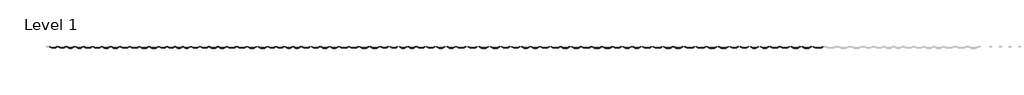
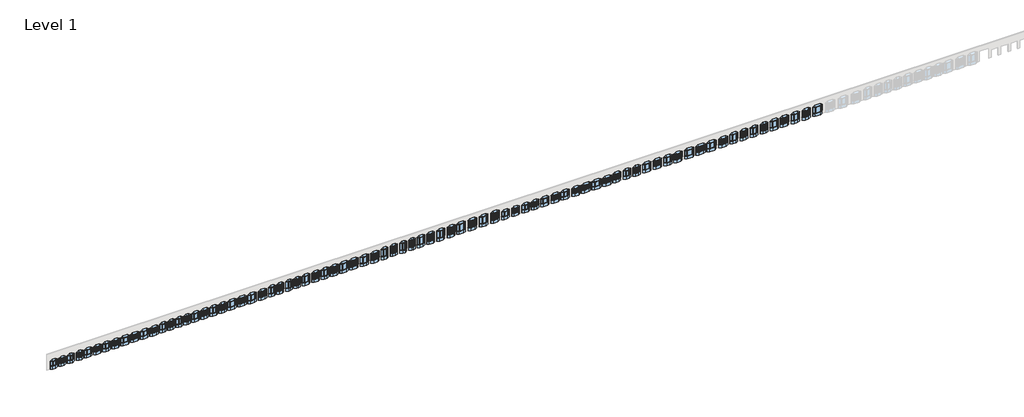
# One storey, part 1 of 3: 79 windows.
"""IFC4 building model written with IfcOpenShell, lengths in millimetres."""

from ifc_helpers import new_model, si_unit, origin, place, context, project, spatial, transform, mapped, element, save
from components import window_06a860e5, window_1d02490c, window_56131e6e, window_12f96043, window_e806ac1e, window_02c418e3, window_36d4527d, window_44f29f49, window_68b13da7, window_b91a7c74, window_684e526c, window_5ed1a6a2, window_db3cc471, window_7edb3484, window_b8dc1ca2, window_0ddc0329, window_752aa877, window_1a263967, window_af7ec51c, window_4b55bb3e, window_03d0ee73, window_8796bc3a, window_0c01a5ed, window_ea5e7c73, window_a33aca33, window_facd88c2, window_4abde0ae, window_d44ed7bf, window_23af1913, window_4f788b19, window_7b3487dd, window_06915691, window_b05a3061, window_df56da20, window_9f57e5f6, window_e866a77a, window_7cd55e26, window_5dafa3b9, window_66615fcf, window_bf2ad7f0, window_040baff0, window_f2461791, window_53f94c20, window_5dd3b73d, window_27e10596, window_4c319ae2, window_0452c5f0, window_05fdbd84, window_85cca415, window_d4aee2c4, window_12510623, window_be9948ae, window_daee31c8, window_10dcae05, window_05678f7b, window_d12ae702, window_9e145141, window_ebc5f2a3, window_377e60f7, window_7b85a637, window_5f73b018, window_1a3f96cc, window_671f8447, window_aa42a1c5, window_7be0c4a4, window_83c77013, window_55e1be5b, window_1a4903c0, window_a2543a47, window_95a61270, window_ce77d617, window_e9c9ef86, window_f1942e76, window_b6e0d081, window_3c337860, window_1e108c49, window_2a9c98d8, window_315284a6, window_90b13a35

model = new_model("IFC4")

# Units and contexts
model_context = context("Model", 3, world=origin())
ifc_project = project(units=[si_unit("LENGTHUNIT", "METRE", prefix="MILLI")], contexts=[model_context])

# Site, building, storey
site = spatial("IfcSite", under=ifc_project)
building = spatial("IfcBuilding", under=site)
storey = spatial("IfcBuildingStorey", under=building, Name="Level 1", Elevation=0.0)

# Windows
placement = place(None, origin())
window_shape = window_06a860e5(model_context)
element("IfcWindow", 1, ObjectType="Pollard_Windows_Tudor Casement Bows and Bays : AML-BAY 30 AFR0512-08-500", at=placement, inside=storey, context=model_context, shape_type="MappedRepresentation", body=[
    mapped(window_shape, transform((-88148.5766324, -2742.926046, 0.0), x_axis=(1.0, 0.0, 0.0), y_axis=(0.0, 1.0, 0.0), z_axis=(0.0, 0.0, 1.0))),
])
window_2_shape = window_1d02490c(model_context)
element("IfcWindow", 2, ObjectType="Pollard_Windows_Tudor Casement Bows and Bays : AML-BAY 30 AFR0512-08-500_GC", at=placement, inside=storey, context=model_context, shape_type="MappedRepresentation", body=[
    mapped(window_2_shape, transform((-86048.5766324, -2742.926046, 0.0), x_axis=(1.0, 0.0, 0.0), y_axis=(0.0, 1.0, 0.0), z_axis=(0.0, 0.0, 1.0))),
])
window_3_shape = window_56131e6e(model_context)
element("IfcWindow", 3, ObjectType="Pollard_Windows_Tudor Casement Bows and Bays : AML-BAY 30 AFR0512-08-600", at=placement, inside=storey, context=model_context, shape_type="MappedRepresentation", body=[
    mapped(window_3_shape, transform((-83948.5766324, -2742.926046, 0.0), x_axis=(1.0, 0.0, 0.0), y_axis=(0.0, 1.0, 0.0), z_axis=(0.0, 0.0, 1.0))),
])
window_4_shape = window_12f96043(model_context)
element("IfcWindow", 4, ObjectType="Pollard_Windows_Tudor Casement Bows and Bays : AML-BAY 30 AFR0512-08-600_GC", at=placement, inside=storey, context=model_context, shape_type="MappedRepresentation", body=[
    mapped(window_4_shape, transform((-81748.5766324, -2742.926046, 0.0), x_axis=(1.0, 0.0, 0.0), y_axis=(0.0, 1.0, 0.0), z_axis=(0.0, 0.0, 1.0))),
])
window_5_shape = window_e806ac1e(model_context)
element("IfcWindow", 5, ObjectType="Pollard_Windows_Tudor Casement Bows and Bays : AML-BAY 30 AFR0512-10-500", at=placement, inside=storey, context=model_context, shape_type="MappedRepresentation", body=[
    mapped(window_5_shape, transform((-79648.5766324, -2742.926046, 0.0), x_axis=(1.0, 0.0, 0.0), y_axis=(0.0, 1.0, 0.0), z_axis=(0.0, 0.0, 1.0))),
])
window_6_shape = window_02c418e3(model_context)
element("IfcWindow", 6, ObjectType="Pollard_Windows_Tudor Casement Bows and Bays : AML-BAY 30 AFR0512-10-500_GC", at=placement, inside=storey, context=model_context, shape_type="MappedRepresentation", body=[
    mapped(window_6_shape, transform((-77348.5766324, -2742.926046, 0.0), x_axis=(1.0, 0.0, 0.0), y_axis=(0.0, 1.0, 0.0), z_axis=(0.0, 0.0, 1.0))),
])
window_7_shape = window_36d4527d(model_context)
element("IfcWindow", 7, ObjectType="Pollard_Windows_Tudor Casement Bows and Bays : AML-BAY 30 AFR0512-10-600", at=placement, inside=storey, context=model_context, shape_type="MappedRepresentation", body=[
    mapped(window_7_shape, transform((-75148.5766324, -2742.926046, 0.0), x_axis=(1.0, 0.0, 0.0), y_axis=(0.0, 1.0, 0.0), z_axis=(0.0, 0.0, 1.0))),
])
window_8_shape = window_44f29f49(model_context)
element("IfcWindow", 8, ObjectType="Pollard_Windows_Tudor Casement Bows and Bays : AML-BAY 30 AFR0512-10-600_GC", at=placement, inside=storey, context=model_context, shape_type="MappedRepresentation", body=[
    mapped(window_8_shape, transform((-72848.5766324, -2742.926046, 0.0), x_axis=(-1.0, 0.0, 0.0), y_axis=(0.0, -1.0, 0.0), z_axis=(0.0, 0.0, 1.0))),
])
window_9_shape = window_68b13da7(model_context)
element("IfcWindow", 9, ObjectType="Pollard_Windows_Tudor Casement Bows and Bays : AML-BAY 30 AFR0512-12-500", at=placement, inside=storey, context=model_context, shape_type="MappedRepresentation", body=[
    mapped(window_9_shape, transform((-70548.5766324, -2742.926046, 0.0), x_axis=(1.0, 0.0, 0.0), y_axis=(0.0, 1.0, 0.0), z_axis=(0.0, 0.0, 1.0))),
])
window_10_shape = window_b91a7c74(model_context)
element("IfcWindow", 10, ObjectType="Pollard_Windows_Tudor Casement Bows and Bays : AML-BAY 30 AFR0512-12-500_GC", at=placement, inside=storey, context=model_context, shape_type="MappedRepresentation", body=[
    mapped(window_10_shape, transform((-68148.5766324, -2742.926046, 0.0), x_axis=(1.0, 0.0, 0.0), y_axis=(0.0, 1.0, 0.0), z_axis=(0.0, 0.0, 1.0))),
])
window_11_shape = window_684e526c(model_context)
element("IfcWindow", 11, ObjectType="Pollard_Windows_Tudor Casement Bows and Bays : AML-BAY 30 AFR0512-12-600", at=placement, inside=storey, context=model_context, shape_type="MappedRepresentation", body=[
    mapped(window_11_shape, transform((-65748.5766324, -2742.926046, 0.0), x_axis=(1.0, 0.0, 0.0), y_axis=(0.0, 1.0, 0.0), z_axis=(0.0, 0.0, 1.0))),
])
window_12_shape = window_5ed1a6a2(model_context)
element("IfcWindow", 12, ObjectType="Pollard_Windows_Tudor Casement Bows and Bays : AML-BAY 30 AFR0512-12-600_GC", at=placement, inside=storey, context=model_context, shape_type="MappedRepresentation", body=[
    mapped(window_12_shape, transform((-63348.5766324, -2742.926046, 0.0), x_axis=(1.0, 0.0, 0.0), y_axis=(0.0, 1.0, 0.0), z_axis=(0.0, 0.0, 1.0))),
])
window_13_shape = window_db3cc471(model_context)
element("IfcWindow", 13, ObjectType="Pollard_Windows_Tudor Casement Bows and Bays : AML-BAY 30 AFR0514-08-500", at=placement, inside=storey, context=model_context, shape_type="MappedRepresentation", body=[
    mapped(window_13_shape, transform((-61148.5766324, -2742.926046, 0.0), x_axis=(1.0, 0.0, 0.0), y_axis=(0.0, 1.0, 0.0), z_axis=(0.0, 0.0, 1.0))),
])
window_14_shape = window_7edb3484(model_context)
element("IfcWindow", 14, ObjectType="Pollard_Windows_Tudor Casement Bows and Bays : AML-BAY 30 AFR0514-08-500_GC", at=placement, inside=storey, context=model_context, shape_type="MappedRepresentation", body=[
    mapped(window_14_shape, transform((-59148.5766324, -2742.926046, 0.0), x_axis=(1.0, 0.0, 0.0), y_axis=(0.0, 1.0, 0.0), z_axis=(0.0, 0.0, 1.0))),
])
window_15_shape = window_b8dc1ca2(model_context)
element("IfcWindow", 15, ObjectType="Pollard_Windows_Tudor Casement Bows and Bays : AML-BAY 30 AFR0514-08-600", at=placement, inside=storey, context=model_context, shape_type="MappedRepresentation", body=[
    mapped(window_15_shape, transform((-57148.5766324, -2742.926046, 0.0), x_axis=(1.0, 0.0, 0.0), y_axis=(0.0, 1.0, 0.0), z_axis=(0.0, 0.0, 1.0))),
])
window_16_shape = window_0ddc0329(model_context)
element("IfcWindow", 16, ObjectType="Pollard_Windows_Tudor Casement Bows and Bays : AML-BAY 30 AFR0514-08-600_GC", at=placement, inside=storey, context=model_context, shape_type="MappedRepresentation", body=[
    mapped(window_16_shape, transform((-55248.5766324, -2742.926046, 0.0), x_axis=(1.0, 0.0, 0.0), y_axis=(0.0, 1.0, 0.0), z_axis=(0.0, 0.0, 1.0))),
])
window_17_shape = window_752aa877(model_context)
element("IfcWindow", 17, ObjectType="Pollard_Windows_Tudor Casement Bows and Bays : AML-BAY 30 AFR0514-10-500", at=placement, inside=storey, context=model_context, shape_type="MappedRepresentation", body=[
    mapped(window_17_shape, transform((-53148.5766324, -2742.926046, 0.0), x_axis=(1.0, 0.0, 0.0), y_axis=(0.0, 1.0, 0.0), z_axis=(0.0, 0.0, 1.0))),
])
window_18_shape = window_1a263967(model_context)
element("IfcWindow", 18, ObjectType="Pollard_Windows_Tudor Casement Bows and Bays : AML-BAY 30 AFR0514-10-500_GC", at=placement, inside=storey, context=model_context, shape_type="MappedRepresentation", body=[
    mapped(window_18_shape, transform((-50848.5766324, -2742.926046, 0.0), x_axis=(1.0, 0.0, 0.0), y_axis=(0.0, 1.0, 0.0), z_axis=(0.0, 0.0, 1.0))),
])
window_19_shape = window_af7ec51c(model_context)
element("IfcWindow", 19, ObjectType="Pollard_Windows_Tudor Casement Bows and Bays : AML-BAY 30 AFR0514-10-600", at=placement, inside=storey, context=model_context, shape_type="MappedRepresentation", body=[
    mapped(window_19_shape, transform((-48648.5766324, -2742.926046, 0.0), x_axis=(1.0, 0.0, 0.0), y_axis=(0.0, 1.0, 0.0), z_axis=(0.0, 0.0, 1.0))),
])
window_20_shape = window_4b55bb3e(model_context)
element("IfcWindow", 20, ObjectType="Pollard_Windows_Tudor Casement Bows and Bays : AML-BAY 30 AFR0514-10-600_GC", at=placement, inside=storey, context=model_context, shape_type="MappedRepresentation", body=[
    mapped(window_20_shape, transform((-46448.5766324, -2742.926046, 0.0), x_axis=(1.0, 0.0, 0.0), y_axis=(0.0, 1.0, 0.0), z_axis=(0.0, 0.0, 1.0))),
])
window_21_shape = window_03d0ee73(model_context)
element("IfcWindow", 21, ObjectType="Pollard_Windows_Tudor Casement Bows and Bays : AML-BAY 30 AFR0514-12-500", at=placement, inside=storey, context=model_context, shape_type="MappedRepresentation", body=[
    mapped(window_21_shape, transform((-44148.5766324, -2742.926046, 0.0), x_axis=(1.0, 0.0, 0.0), y_axis=(0.0, 1.0, 0.0), z_axis=(0.0, 0.0, 1.0))),
])
window_22_shape = window_8796bc3a(model_context)
element("IfcWindow", 22, ObjectType="Pollard_Windows_Tudor Casement Bows and Bays : AML-BAY 30 AFR0514-12-500_GC", at=placement, inside=storey, context=model_context, shape_type="MappedRepresentation", body=[
    mapped(window_22_shape, transform((-41648.5766324, -2742.926046, 0.0), x_axis=(1.0, 0.0, 0.0), y_axis=(0.0, 1.0, 0.0), z_axis=(0.0, 0.0, 1.0))),
])
window_23_shape = window_0c01a5ed(model_context)
element("IfcWindow", 23, ObjectType="Pollard_Windows_Tudor Casement Bows and Bays : AML-BAY 30 AFR0514-12-600", at=placement, inside=storey, context=model_context, shape_type="MappedRepresentation", body=[
    mapped(window_23_shape, transform((-39148.5766324, -2742.926046, 0.0), x_axis=(1.0, 0.0, 0.0), y_axis=(0.0, 1.0, 0.0), z_axis=(0.0, 0.0, 1.0))),
])
window_24_shape = window_ea5e7c73(model_context)
element("IfcWindow", 24, ObjectType="Pollard_Windows_Tudor Casement Bows and Bays : AML-BAY 30 AFR0514-12-600_GC", at=placement, inside=storey, context=model_context, shape_type="MappedRepresentation", body=[
    mapped(window_24_shape, transform((-36548.5766324, -2742.926046, 0.0), x_axis=(1.0, 0.0, 0.0), y_axis=(0.0, 1.0, 0.0), z_axis=(0.0, 0.0, 1.0))),
])
window_25_shape = window_a33aca33(model_context)
element("IfcWindow", 25, ObjectType="Pollard_Windows_Tudor Casement Bows and Bays : AML-BAY 30 AFR0516-08-500", at=placement, inside=storey, context=model_context, shape_type="MappedRepresentation", body=[
    mapped(window_25_shape, transform((-34248.5766324, -2742.926046, 0.0), x_axis=(1.0, 0.0, 0.0), y_axis=(0.0, 1.0, 0.0), z_axis=(0.0, 0.0, 1.0))),
])
window_26_shape = window_facd88c2(model_context)
element("IfcWindow", 26, ObjectType="Pollard_Windows_Tudor Casement Bows and Bays : AML-BAY 30 AFR0516-08-500_GC", at=placement, inside=storey, context=model_context, shape_type="MappedRepresentation", body=[
    mapped(window_26_shape, transform((-32248.5766324, -2742.926046, 0.0), x_axis=(1.0, 0.0, 0.0), y_axis=(0.0, 1.0, 0.0), z_axis=(0.0, 0.0, 1.0))),
])
window_27_shape = window_4abde0ae(model_context)
element("IfcWindow", 27, ObjectType="Pollard_Windows_Tudor Casement Bows and Bays : AML-BAY 30 AFR0516-08-600", at=placement, inside=storey, context=model_context, shape_type="MappedRepresentation", body=[
    mapped(window_27_shape, transform((-30048.5766324, -2742.926046, 0.0), x_axis=(1.0, 0.0, 0.0), y_axis=(0.0, 1.0, 0.0), z_axis=(0.0, 0.0, 1.0))),
])
window_28_shape = window_d44ed7bf(model_context)
element("IfcWindow", 28, ObjectType="Pollard_Windows_Tudor Casement Bows and Bays : AML-BAY 30 AFR0516-08-600_GC", at=placement, inside=storey, context=model_context, shape_type="MappedRepresentation", body=[
    mapped(window_28_shape, transform((-28048.5766324, -2742.926046, 0.0), x_axis=(1.0, 0.0, 0.0), y_axis=(0.0, 1.0, 0.0), z_axis=(0.0, 0.0, 1.0))),
])
window_29_shape = window_23af1913(model_context)
element("IfcWindow", 29, ObjectType="Pollard_Windows_Tudor Casement Bows and Bays : AML-BAY 30 AFR0516-10-500", at=placement, inside=storey, context=model_context, shape_type="MappedRepresentation", body=[
    mapped(window_29_shape, transform((-25848.5766324, -2742.926046, 0.0), x_axis=(1.0, 0.0, 0.0), y_axis=(0.0, 1.0, 0.0), z_axis=(0.0, 0.0, 1.0))),
])
window_30_shape = window_4f788b19(model_context)
element("IfcWindow", 30, ObjectType="Pollard_Windows_Tudor Casement Bows and Bays : AML-BAY 30 AFR0516-10-500_GC", at=placement, inside=storey, context=model_context, shape_type="MappedRepresentation", body=[
    mapped(window_30_shape, transform((-23448.5766324, -2742.926046, 0.0), x_axis=(1.0, 0.0, 0.0), y_axis=(0.0, 1.0, 0.0), z_axis=(0.0, 0.0, 1.0))),
])
window_31_shape = window_7b3487dd(model_context)
element("IfcWindow", 31, ObjectType="Pollard_Windows_Tudor Casement Bows and Bays : AML-BAY 30 AFR0516-10-600", at=placement, inside=storey, context=model_context, shape_type="MappedRepresentation", body=[
    mapped(window_31_shape, transform((-21148.5766324, -2742.926046, 0.0), x_axis=(1.0, 0.0, 0.0), y_axis=(0.0, 1.0, 0.0), z_axis=(0.0, 0.0, 1.0))),
])
window_32_shape = window_06915691(model_context)
element("IfcWindow", 32, ObjectType="Pollard_Windows_Tudor Casement Bows and Bays : AML-BAY 30 AFR0516-10-600_GC", at=placement, inside=storey, context=model_context, shape_type="MappedRepresentation", body=[
    mapped(window_32_shape, transform((-18848.5766324, -2742.926046, 0.0), x_axis=(1.0, 0.0, 0.0), y_axis=(0.0, 1.0, 0.0), z_axis=(0.0, 0.0, 1.0))),
])
window_33_shape = window_b05a3061(model_context)
element("IfcWindow", 33, ObjectType="Pollard_Windows_Tudor Casement Bows and Bays : AML-BAY 30 AFR0516-12-500", at=placement, inside=storey, context=model_context, shape_type="MappedRepresentation", body=[
    mapped(window_33_shape, transform((-16448.5766324, -2742.926046, 0.0), x_axis=(1.0, 0.0, 0.0), y_axis=(0.0, 1.0, 0.0), z_axis=(0.0, 0.0, 1.0))),
])
window_34_shape = window_df56da20(model_context)
element("IfcWindow", 34, ObjectType="Pollard_Windows_Tudor Casement Bows and Bays : AML-BAY 30 AFR0516-12-500_GC", at=placement, inside=storey, context=model_context, shape_type="MappedRepresentation", body=[
    mapped(window_34_shape, transform((-14048.5766324, -2742.926046, 0.0), x_axis=(1.0, 0.0, 0.0), y_axis=(0.0, 1.0, 0.0), z_axis=(0.0, 0.0, 1.0))),
])
window_35_shape = window_9f57e5f6(model_context)
element("IfcWindow", 35, ObjectType="Pollard_Windows_Tudor Casement Bows and Bays : AML-BAY 30 AFR0516-12-600", at=placement, inside=storey, context=model_context, shape_type="MappedRepresentation", body=[
    mapped(window_35_shape, transform((-11448.5766324, -2742.926046, 0.0), x_axis=(1.0, 0.0, 0.0), y_axis=(0.0, 1.0, 0.0), z_axis=(0.0, 0.0, 1.0))),
])
window_36_shape = window_e866a77a(model_context)
element("IfcWindow", 36, ObjectType="Pollard_Windows_Tudor Casement Bows and Bays : AML-BAY 30 AFR0516-12-600_GC", at=placement, inside=storey, context=model_context, shape_type="MappedRepresentation", body=[
    mapped(window_36_shape, transform((-8848.5766324, -2742.926046, 0.0), x_axis=(1.0, 0.0, 0.0), y_axis=(0.0, 1.0, 0.0), z_axis=(0.0, 0.0, 1.0))),
])
window_37_shape = window_7cd55e26(model_context)
element("IfcWindow", 37, ObjectType="Pollard_Windows_Tudor Casement Bows and Bays : AML-BAY 30 AFR0518-08-500", at=placement, inside=storey, context=model_context, shape_type="MappedRepresentation", body=[
    mapped(window_37_shape, transform((-6448.5766324, -2742.926046, 0.0), x_axis=(1.0, 0.0, 0.0), y_axis=(0.0, 1.0, 0.0), z_axis=(0.0, 0.0, 1.0))),
])
window_38_shape = window_5dafa3b9(model_context)
element("IfcWindow", 38, ObjectType="Pollard_Windows_Tudor Casement Bows and Bays : AML-BAY 30 AFR0518-08-500_GC", at=placement, inside=storey, context=model_context, shape_type="MappedRepresentation", body=[
    mapped(window_38_shape, transform((-4148.5766324, -2742.926046, 0.0), x_axis=(1.0, 0.0, 0.0), y_axis=(0.0, 1.0, 0.0), z_axis=(0.0, 0.0, 1.0))),
])
window_39_shape = window_66615fcf(model_context)
element("IfcWindow", 39, ObjectType="Pollard_Windows_Tudor Casement Bows and Bays : AML-BAY 30 AFR0518-08-600", at=placement, inside=storey, context=model_context, shape_type="MappedRepresentation", body=[
    mapped(window_39_shape, transform((-1848.5766324, -2742.926046, 0.0), x_axis=(1.0, 0.0, 0.0), y_axis=(0.0, 1.0, 0.0), z_axis=(0.0, 0.0, 1.0))),
])
window_40_shape = window_bf2ad7f0(model_context)
element("IfcWindow", 40, ObjectType="Pollard_Windows_Tudor Casement Bows and Bays : AML-BAY 30 AFR0518-08-600_GC", at=placement, inside=storey, context=model_context, shape_type="MappedRepresentation", body=[
    mapped(window_40_shape, transform((351.4233676, -2742.926046, 0.0), x_axis=(1.0, 0.0, 0.0), y_axis=(0.0, 1.0, 0.0), z_axis=(0.0, 0.0, 1.0))),
])
window_41_shape = window_040baff0(model_context)
element("IfcWindow", 41, ObjectType="Pollard_Windows_Tudor Casement Bows and Bays : AML-BAY 30 AFR0518-10-500", at=placement, inside=storey, context=model_context, shape_type="MappedRepresentation", body=[
    mapped(window_41_shape, transform((2551.4233676, -2742.926046, 0.0), x_axis=(1.0, 0.0, 0.0), y_axis=(0.0, 1.0, 0.0), z_axis=(0.0, 0.0, 1.0))),
])
window_42_shape = window_f2461791(model_context)
element("IfcWindow", 42, ObjectType="Pollard_Windows_Tudor Casement Bows and Bays : AML-BAY 30 AFR0518-10-500_GC", at=placement, inside=storey, context=model_context, shape_type="MappedRepresentation", body=[
    mapped(window_42_shape, transform((4951.4233676, -2742.926046, 0.0), x_axis=(1.0, 0.0, 0.0), y_axis=(0.0, 1.0, 0.0), z_axis=(0.0, 0.0, 1.0))),
])
window_43_shape = window_53f94c20(model_context)
element("IfcWindow", 43, ObjectType="Pollard_Windows_Tudor Casement Bows and Bays : AML-BAY 30 AFR0518-10-600", at=placement, inside=storey, context=model_context, shape_type="MappedRepresentation", body=[
    mapped(window_43_shape, transform((7451.4233676, -2742.926046, 0.0), x_axis=(1.0, 0.0, 0.0), y_axis=(0.0, 1.0, 0.0), z_axis=(0.0, 0.0, 1.0))),
])
window_44_shape = window_5dd3b73d(model_context)
element("IfcWindow", 44, ObjectType="Pollard_Windows_Tudor Casement Bows and Bays : AML-BAY 30 AFR0518-10-600_GC", at=placement, inside=storey, context=model_context, shape_type="MappedRepresentation", body=[
    mapped(window_44_shape, transform((10051.4233676, -2742.926046, 0.0), x_axis=(1.0, 0.0, 0.0), y_axis=(0.0, 1.0, 0.0), z_axis=(0.0, 0.0, 1.0))),
])
window_45_shape = window_27e10596(model_context)
element("IfcWindow", 45, ObjectType="Pollard_Windows_Tudor Casement Bows and Bays : AML-BAY 30 AFR0518-12-500", at=placement, inside=storey, context=model_context, shape_type="MappedRepresentation", body=[
    mapped(window_45_shape, transform((12451.4233676, -2742.926046, 0.0), x_axis=(1.0, 0.0, 0.0), y_axis=(0.0, 1.0, 0.0), z_axis=(0.0, 0.0, 1.0))),
])
window_46_shape = window_4c319ae2(model_context)
element("IfcWindow", 46, ObjectType="Pollard_Windows_Tudor Casement Bows and Bays : AML-BAY 30 AFR0518-12-500_GC", at=placement, inside=storey, context=model_context, shape_type="MappedRepresentation", body=[
    mapped(window_46_shape, transform((15251.4233676, -2742.926046, 0.0), x_axis=(1.0, 0.0, 0.0), y_axis=(0.0, 1.0, 0.0), z_axis=(0.0, 0.0, 1.0))),
])
window_47_shape = window_0452c5f0(model_context)
element("IfcWindow", 47, ObjectType="Pollard_Windows_Tudor Casement Bows and Bays : AML-BAY 30 AFR0518-12-600", at=placement, inside=storey, context=model_context, shape_type="MappedRepresentation", body=[
    mapped(window_47_shape, transform((18051.4233676, -2742.926046, 0.0), x_axis=(1.0, 0.0, 0.0), y_axis=(0.0, 1.0, 0.0), z_axis=(0.0, 0.0, 1.0))),
])
window_48_shape = window_05fdbd84(model_context)
element("IfcWindow", 48, ObjectType="Pollard_Windows_Tudor Casement Bows and Bays : AML-BAY 30 AFR0518-12-600_GC", at=placement, inside=storey, context=model_context, shape_type="MappedRepresentation", body=[
    mapped(window_48_shape, transform((20851.4233676, -2742.926046, 0.0), x_axis=(1.0, 0.0, 0.0), y_axis=(0.0, 1.0, 0.0), z_axis=(0.0, 0.0, 1.0))),
])
window_49_shape = window_85cca415(model_context)
element("IfcWindow", 49, ObjectType="Pollard_Windows_Tudor Casement Bows and Bays : AML-BAY 30 AFR0612-08-500", at=placement, inside=storey, context=model_context, shape_type="MappedRepresentation", body=[
    mapped(window_49_shape, transform((23451.4233676, -2742.926046, 0.0), x_axis=(1.0, 0.0, 0.0), y_axis=(0.0, 1.0, 0.0), z_axis=(0.0, 0.0, 1.0))),
])
window_50_shape = window_d4aee2c4(model_context)
element("IfcWindow", 50, ObjectType="Pollard_Windows_Tudor Casement Bows and Bays : AML-BAY 30 AFR0612-08-500_GC", at=placement, inside=storey, context=model_context, shape_type="MappedRepresentation", body=[
    mapped(window_50_shape, transform((25951.4233676, -2742.926046, 0.0), x_axis=(1.0, 0.0, 0.0), y_axis=(0.0, 1.0, 0.0), z_axis=(0.0, 0.0, 1.0))),
])
window_51_shape = window_12510623(model_context)
element("IfcWindow", 51, ObjectType="Pollard_Windows_Tudor Casement Bows and Bays : AML-BAY 30 AFR0612-08-600", at=placement, inside=storey, context=model_context, shape_type="MappedRepresentation", body=[
    mapped(window_51_shape, transform((28451.4233676, -2742.926046, 0.0), x_axis=(1.0, 0.0, 0.0), y_axis=(0.0, 1.0, 0.0), z_axis=(0.0, 0.0, 1.0))),
])
window_52_shape = window_be9948ae(model_context)
element("IfcWindow", 52, ObjectType="Pollard_Windows_Tudor Casement Bows and Bays : AML-BAY 30 AFR0612-08-600_GC", at=placement, inside=storey, context=model_context, shape_type="MappedRepresentation", body=[
    mapped(window_52_shape, transform((30751.4233676, -2742.926046, 0.0), x_axis=(1.0, 0.0, 0.0), y_axis=(0.0, 1.0, 0.0), z_axis=(0.0, 0.0, 1.0))),
])
window_53_shape = window_daee31c8(model_context)
element("IfcWindow", 53, ObjectType="Pollard_Windows_Tudor Casement Bows and Bays : AML-BAY 30 AFR0612-10-500", at=placement, inside=storey, context=model_context, shape_type="MappedRepresentation", body=[
    mapped(window_53_shape, transform((33151.4233676, -2742.926046, 0.0), x_axis=(1.0, 0.0, 0.0), y_axis=(0.0, 1.0, 0.0), z_axis=(0.0, 0.0, 1.0))),
])
window_54_shape = window_10dcae05(model_context)
element("IfcWindow", 54, ObjectType="Pollard_Windows_Tudor Casement Bows and Bays : AML-BAY 30 AFR0612-10-500_GC", at=placement, inside=storey, context=model_context, shape_type="MappedRepresentation", body=[
    mapped(window_54_shape, transform((35751.4233676, -2742.926046, 0.0), x_axis=(1.0, 0.0, 0.0), y_axis=(0.0, 1.0, 0.0), z_axis=(0.0, 0.0, 1.0))),
])
window_55_shape = window_05678f7b(model_context)
element("IfcWindow", 55, ObjectType="Pollard_Windows_Tudor Casement Bows and Bays : AML-BAY 30 AFR0612-10-600", at=placement, inside=storey, context=model_context, shape_type="MappedRepresentation", body=[
    mapped(window_55_shape, transform((38151.4233676, -2742.926046, 0.0), x_axis=(1.0, 0.0, 0.0), y_axis=(0.0, 1.0, 0.0), z_axis=(0.0, 0.0, 1.0))),
])
window_56_shape = window_d12ae702(model_context)
element("IfcWindow", 56, ObjectType="Pollard_Windows_Tudor Casement Bows and Bays : AML-BAY 30 AFR0612-10-600_GC", at=placement, inside=storey, context=model_context, shape_type="MappedRepresentation", body=[
    mapped(window_56_shape, transform((40851.4233676, -2742.926046, 0.0), x_axis=(1.0, 0.0, 0.0), y_axis=(0.0, 1.0, 0.0), z_axis=(0.0, 0.0, 1.0))),
])
window_57_shape = window_9e145141(model_context)
element("IfcWindow", 57, ObjectType="Pollard_Windows_Tudor Casement Bows and Bays : AML-BAY 30 AFR0612-12-500_GC", at=placement, inside=storey, context=model_context, shape_type="MappedRepresentation", body=[
    mapped(window_57_shape, transform((43351.4233676, -2742.926046, 0.0), x_axis=(1.0, 0.0, 0.0), y_axis=(0.0, 1.0, 0.0), z_axis=(0.0, 0.0, 1.0))),
])
window_58_shape = window_ebc5f2a3(model_context)
element("IfcWindow", 58, ObjectType="Pollard_Windows_Tudor Casement Bows and Bays : AML-BAY 30 AFR0612-12-600", at=placement, inside=storey, context=model_context, shape_type="MappedRepresentation", body=[
    mapped(window_58_shape, transform((45951.4233676, -2742.926046, 0.0), x_axis=(1.0, 0.0, 0.0), y_axis=(0.0, 1.0, 0.0), z_axis=(0.0, 0.0, 1.0))),
])
window_59_shape = window_377e60f7(model_context)
element("IfcWindow", 59, ObjectType="Pollard_Windows_Tudor Casement Bows and Bays : AML-BAY 30 AFR0612-12-600_GC", at=placement, inside=storey, context=model_context, shape_type="MappedRepresentation", body=[
    mapped(window_59_shape, transform((48551.4233676, -2742.926046, 0.0), x_axis=(1.0, 0.0, 0.0), y_axis=(0.0, 1.0, 0.0), z_axis=(0.0, 0.0, 1.0))),
])
window_60_shape = window_7b85a637(model_context)
element("IfcWindow", 60, ObjectType="Pollard_Windows_Tudor Casement Bows and Bays : AML-BAY 30 AFR0614-08-500_GC", at=placement, inside=storey, context=model_context, shape_type="MappedRepresentation", body=[
    mapped(window_60_shape, transform((50951.4233676, -2742.926046, 0.0), x_axis=(1.0, 0.0, 0.0), y_axis=(0.0, 1.0, 0.0), z_axis=(0.0, 0.0, 1.0))),
])
window_61_shape = window_5f73b018(model_context)
element("IfcWindow", 61, ObjectType="Pollard_Windows_Tudor Casement Bows and Bays : AML-BAY 30 AFR0614-08-600", at=placement, inside=storey, context=model_context, shape_type="MappedRepresentation", body=[
    mapped(window_61_shape, transform((53451.4233676, -2742.926046, 0.0), x_axis=(1.0, 0.0, 0.0), y_axis=(0.0, 1.0, 0.0), z_axis=(0.0, 0.0, 1.0))),
])
window_62_shape = window_1a3f96cc(model_context)
element("IfcWindow", 62, ObjectType="Pollard_Windows_Tudor Casement Bows and Bays : AML-BAY 30 AFR0614-08-600_GC", at=placement, inside=storey, context=model_context, shape_type="MappedRepresentation", body=[
    mapped(window_62_shape, transform((55851.4233676, -2742.926046, 0.0), x_axis=(1.0, 0.0, 0.0), y_axis=(0.0, 1.0, 0.0), z_axis=(0.0, 0.0, 1.0))),
])
window_63_shape = window_671f8447(model_context)
element("IfcWindow", 63, ObjectType="Pollard_Windows_Tudor Casement Bows and Bays : AML-BAY 30 AFR0614-10-500", at=placement, inside=storey, context=model_context, shape_type="MappedRepresentation", body=[
    mapped(window_63_shape, transform((58351.4233676, -2742.926046, 0.0), x_axis=(1.0, 0.0, 0.0), y_axis=(0.0, 1.0, 0.0), z_axis=(0.0, 0.0, 1.0))),
])
window_64_shape = window_aa42a1c5(model_context)
element("IfcWindow", 64, ObjectType="Pollard_Windows_Tudor Casement Bows and Bays : AML-BAY 30 AFR0614-10-500_GC", at=placement, inside=storey, context=model_context, shape_type="MappedRepresentation", body=[
    mapped(window_64_shape, transform((60951.4233676, -2742.926046, 0.0), x_axis=(1.0, 0.0, 0.0), y_axis=(0.0, 1.0, 0.0), z_axis=(0.0, 0.0, 1.0))),
])
window_65_shape = window_7be0c4a4(model_context)
element("IfcWindow", 65, ObjectType="Pollard_Windows_Tudor Casement Bows and Bays : AML-BAY 30 AFR0614-10-600", at=placement, inside=storey, context=model_context, shape_type="MappedRepresentation", body=[
    mapped(window_65_shape, transform((63551.4233676, -2742.926046, 0.0), x_axis=(-1.0, 0.0, 0.0), y_axis=(0.0, -1.0, 0.0), z_axis=(0.0, 0.0, 1.0))),
])
window_66_shape = window_83c77013(model_context)
element("IfcWindow", 66, ObjectType="Pollard_Windows_Tudor Casement Bows and Bays : AML-BAY 30 AFR0614-10-600_GC", at=placement, inside=storey, context=model_context, shape_type="MappedRepresentation", body=[
    mapped(window_66_shape, transform((66051.4233676, -2742.926046, 0.0), x_axis=(1.0, 0.0, 0.0), y_axis=(0.0, 1.0, 0.0), z_axis=(0.0, 0.0, 1.0))),
])
window_67_shape = window_55e1be5b(model_context)
element("IfcWindow", 67, ObjectType="Pollard_Windows_Tudor Casement Bows and Bays : AML-BAY 30 AFR0614-12-500", at=placement, inside=storey, context=model_context, shape_type="MappedRepresentation", body=[
    mapped(window_67_shape, transform((68851.4233676, -2742.926046, 0.0), x_axis=(1.0, 0.0, 0.0), y_axis=(0.0, 1.0, 0.0), z_axis=(0.0, 0.0, 1.0))),
])
window_68_shape = window_1a4903c0(model_context)
element("IfcWindow", 68, ObjectType="Pollard_Windows_Tudor Casement Bows and Bays : AML-BAY 30 AFR0614-12-500_GC", at=placement, inside=storey, context=model_context, shape_type="MappedRepresentation", body=[
    mapped(window_68_shape, transform((71651.4233676, -2742.926046, 0.0), x_axis=(1.0, 0.0, 0.0), y_axis=(0.0, 1.0, 0.0), z_axis=(0.0, 0.0, 1.0))),
])
window_69_shape = window_a2543a47(model_context)
element("IfcWindow", 69, ObjectType="Pollard_Windows_Tudor Casement Bows and Bays : AML-BAY 30 AFR0614-12-600", at=placement, inside=storey, context=model_context, shape_type="MappedRepresentation", body=[
    mapped(window_69_shape, transform((74351.4233676, -2742.926046, 0.0), x_axis=(1.0, 0.0, 0.0), y_axis=(0.0, 1.0, 0.0), z_axis=(0.0, 0.0, 1.0))),
])
window_70_shape = window_95a61270(model_context)
element("IfcWindow", 70, ObjectType="Pollard_Windows_Tudor Casement Bows and Bays : AML-BAY 30 AFR0614-12-600_GC", at=placement, inside=storey, context=model_context, shape_type="MappedRepresentation", body=[
    mapped(window_70_shape, transform((77251.4233676, -2742.926046, 0.0), x_axis=(1.0, 0.0, 0.0), y_axis=(0.0, 1.0, 0.0), z_axis=(0.0, 0.0, 1.0))),
])
window_71_shape = window_ce77d617(model_context)
element("IfcWindow", 71, ObjectType="Pollard_Windows_Tudor Casement Bows and Bays : AML-BAY 30 AFR0616-08-500", at=placement, inside=storey, context=model_context, shape_type="MappedRepresentation", body=[
    mapped(window_71_shape, transform((79851.4233676, -2742.926046, 0.0), x_axis=(1.0, 0.0, 0.0), y_axis=(0.0, 1.0, 0.0), z_axis=(0.0, 0.0, 1.0))),
])
window_72_shape = window_e9c9ef86(model_context)
element("IfcWindow", 72, ObjectType="Pollard_Windows_Tudor Casement Bows and Bays : AML-BAY 30 AFR0616-08-500_GC", at=placement, inside=storey, context=model_context, shape_type="MappedRepresentation", body=[
    mapped(window_72_shape, transform((82351.4233676, -2742.926046, 0.0), x_axis=(1.0, 0.0, 0.0), y_axis=(0.0, 1.0, 0.0), z_axis=(0.0, 0.0, 1.0))),
])
window_73_shape = window_f1942e76(model_context)
element("IfcWindow", 73, ObjectType="Pollard_Windows_Tudor Casement Bows and Bays : AML-BAY 30 AFR0616-08-600", at=placement, inside=storey, context=model_context, shape_type="MappedRepresentation", body=[
    mapped(window_73_shape, transform((84851.4233676, -2742.926046, 0.0), x_axis=(1.0, 0.0, 0.0), y_axis=(0.0, 1.0, 0.0), z_axis=(0.0, 0.0, 1.0))),
])
window_74_shape = window_b6e0d081(model_context)
element("IfcWindow", 74, ObjectType="Pollard_Windows_Tudor Casement Bows and Bays : AML-BAY 30 AFR0616-08-600_GC", at=placement, inside=storey, context=model_context, shape_type="MappedRepresentation", body=[
    mapped(window_74_shape, transform((87351.4233676, -2742.926046, 0.0), x_axis=(1.0, 0.0, 0.0), y_axis=(0.0, 1.0, 0.0), z_axis=(0.0, 0.0, 1.0))),
])
window_75_shape = window_3c337860(model_context)
element("IfcWindow", 75, ObjectType="Pollard_Windows_Tudor Casement Bows and Bays : AML-BAY 30 AFR0616-10-500", at=placement, inside=storey, context=model_context, shape_type="MappedRepresentation", body=[
    mapped(window_75_shape, transform((89851.4233676, -2742.926046, 0.0), x_axis=(1.0, 0.0, 0.0), y_axis=(0.0, 1.0, 0.0), z_axis=(0.0, 0.0, 1.0))),
])
window_76_shape = window_1e108c49(model_context)
element("IfcWindow", 76, ObjectType="Pollard_Windows_Tudor Casement Bows and Bays : AML-BAY 30 AFR0616-10-500_GC", at=placement, inside=storey, context=model_context, shape_type="MappedRepresentation", body=[
    mapped(window_76_shape, transform((92351.4233676, -2742.926046, 0.0), x_axis=(1.0, 0.0, 0.0), y_axis=(0.0, 1.0, 0.0), z_axis=(0.0, 0.0, 1.0))),
])
window_77_shape = window_2a9c98d8(model_context)
element("IfcWindow", 77, ObjectType="Pollard_Windows_Tudor Casement Bows and Bays : AML-BAY 30 AFR0616-10-600", at=placement, inside=storey, context=model_context, shape_type="MappedRepresentation", body=[
    mapped(window_77_shape, transform((95051.4233676, -2742.926046, 0.0), x_axis=(1.0, 0.0, 0.0), y_axis=(0.0, 1.0, 0.0), z_axis=(0.0, 0.0, 1.0))),
])
window_78_shape = window_315284a6(model_context)
element("IfcWindow", 78, ObjectType="Pollard_Windows_Tudor Casement Bows and Bays : AML-BAY 30 AFR0616-10-600_GC", at=placement, inside=storey, context=model_context, shape_type="MappedRepresentation", body=[
    mapped(window_78_shape, transform((97751.4233676, -2742.926046, 0.0), x_axis=(1.0, 0.0, 0.0), y_axis=(0.0, 1.0, 0.0), z_axis=(0.0, 0.0, 1.0))),
])
window_79_shape = window_90b13a35(model_context)
element("IfcWindow", 79, ObjectType="Pollard_Windows_Tudor Casement Bows and Bays : AML-BAY 30 AFR0616-12-500", at=placement, inside=storey, context=model_context, shape_type="MappedRepresentation", body=[
    mapped(window_79_shape, transform((100551.4233676, -2742.926046, 0.0), x_axis=(1.0, 0.0, 0.0), y_axis=(0.0, 1.0, 0.0), z_axis=(0.0, 0.0, 1.0))),
])

save(model, "model.ifc")
